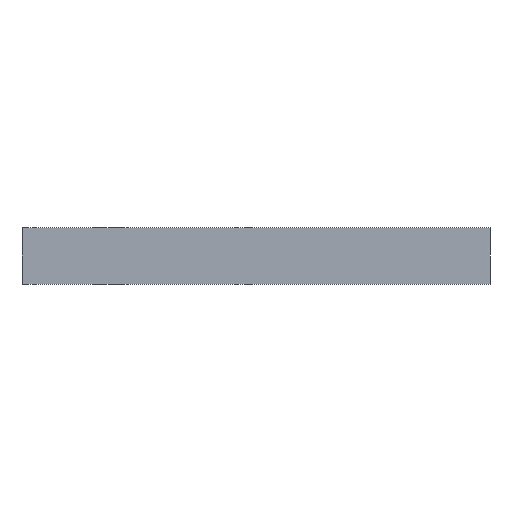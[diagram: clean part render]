
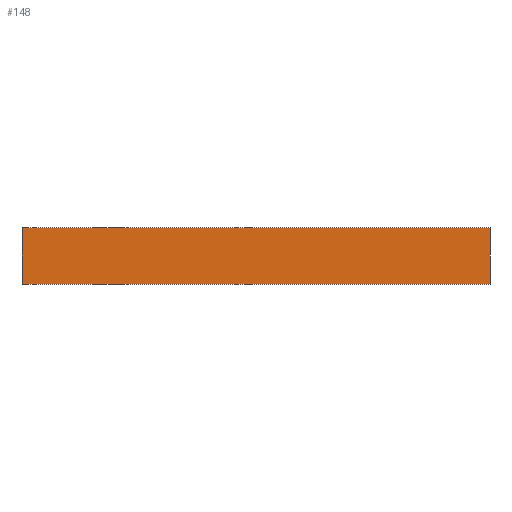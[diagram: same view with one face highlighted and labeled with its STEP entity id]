
A CAD part, front view. The second image highlights one B-rep face of the part: STEP entity #148.
In plain terms, the highlighted planar face has unit normal (0, -1, 0).
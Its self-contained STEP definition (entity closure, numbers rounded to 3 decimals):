
#32 = EDGE_CURVE('',#33,#35,#37,.T.);
#33 = VERTEX_POINT('',#34);
#34 = CARTESIAN_POINT('',(114.935,-82.55,0.));
#35 = VERTEX_POINT('',#36);
#36 = CARTESIAN_POINT('',(114.935,-82.55,1.6));
#37 = SURFACE_CURVE('',#38,(#42,#54),.PCURVE_S1.);
#38 = LINE('',#39,#40);
#39 = CARTESIAN_POINT('',(114.935,-82.55,0.));
#40 = VECTOR('',#41,1.);
#41 = DIRECTION('',(0.,0.,1.));
#42 = PCURVE('',#43,#48);
#43 = PLANE('',#44);
#44 = AXIS2_PLACEMENT_3D('',#45,#46,#47);
#45 = CARTESIAN_POINT('',(114.935,-82.55,0.));
#46 = DIRECTION('',(-1.,0.,0.));
#47 = DIRECTION('',(0.,1.,0.));
#48 = DEFINITIONAL_REPRESENTATION('',(#49),#53);
#49 = LINE('',#50,#51);
#50 = CARTESIAN_POINT('',(0.,0.));
#51 = VECTOR('',#52,1.);
#52 = DIRECTION('',(0.,-1.));
#53 = ( GEOMETRIC_REPRESENTATION_CONTEXT(2) 
PARAMETRIC_REPRESENTATION_CONTEXT() REPRESENTATION_CONTEXT('2D SPACE',''
  ) );
#54 = PCURVE('',#55,#60);
#55 = PLANE('',#56);
#56 = AXIS2_PLACEMENT_3D('',#57,#58,#59);
#57 = CARTESIAN_POINT('',(101.6,-82.55,0.));
#58 = DIRECTION('',(0.,1.,0.));
#59 = DIRECTION('',(1.,0.,0.));
#60 = DEFINITIONAL_REPRESENTATION('',(#61),#65);
#61 = LINE('',#62,#63);
#62 = CARTESIAN_POINT('',(13.335,0.));
#63 = VECTOR('',#64,1.);
#64 = DIRECTION('',(0.,-1.));
#65 = ( GEOMETRIC_REPRESENTATION_CONTEXT(2) 
PARAMETRIC_REPRESENTATION_CONTEXT() REPRESENTATION_CONTEXT('2D SPACE',''
  ) );
#83 = PLANE('',#84);
#84 = AXIS2_PLACEMENT_3D('',#85,#86,#87);
#85 = CARTESIAN_POINT('',(108.268,-73.66,1.6));
#86 = DIRECTION('',(0.,0.,1.));
#87 = DIRECTION('',(1.,0.,-0.));
#137 = PLANE('',#138);
#138 = AXIS2_PLACEMENT_3D('',#139,#140,#141);
#139 = CARTESIAN_POINT('',(108.268,-73.66,0.));
#140 = DIRECTION('',(0.,0.,1.));
#141 = DIRECTION('',(1.,0.,-0.));
#148 = ADVANCED_FACE('',(#149),#55,.F.);
#149 = FACE_BOUND('',#150,.F.);
#150 = EDGE_LOOP('',(#151,#181,#202,#203));
#151 = ORIENTED_EDGE('',*,*,#152,.T.);
#152 = EDGE_CURVE('',#153,#155,#157,.T.);
#153 = VERTEX_POINT('',#154);
#154 = CARTESIAN_POINT('',(101.6,-82.55,0.));
#155 = VERTEX_POINT('',#156);
#156 = CARTESIAN_POINT('',(101.6,-82.55,1.6));
#157 = SURFACE_CURVE('',#158,(#162,#169),.PCURVE_S1.);
#158 = LINE('',#159,#160);
#159 = CARTESIAN_POINT('',(101.6,-82.55,0.));
#160 = VECTOR('',#161,1.);
#161 = DIRECTION('',(0.,0.,1.));
#162 = PCURVE('',#55,#163);
#163 = DEFINITIONAL_REPRESENTATION('',(#164),#168);
#164 = LINE('',#165,#166);
#165 = CARTESIAN_POINT('',(0.,0.));
#166 = VECTOR('',#167,1.);
#167 = DIRECTION('',(0.,-1.));
#168 = ( GEOMETRIC_REPRESENTATION_CONTEXT(2) 
PARAMETRIC_REPRESENTATION_CONTEXT() REPRESENTATION_CONTEXT('2D SPACE',''
  ) );
#169 = PCURVE('',#170,#175);
#170 = PLANE('',#171);
#171 = AXIS2_PLACEMENT_3D('',#172,#173,#174);
#172 = CARTESIAN_POINT('',(101.6,-72.39,0.));
#173 = DIRECTION('',(1.,0.,-0.));
#174 = DIRECTION('',(0.,-1.,0.));
#175 = DEFINITIONAL_REPRESENTATION('',(#176),#180);
#176 = LINE('',#177,#178);
#177 = CARTESIAN_POINT('',(10.16,0.));
#178 = VECTOR('',#179,1.);
#179 = DIRECTION('',(0.,-1.));
#180 = ( GEOMETRIC_REPRESENTATION_CONTEXT(2) 
PARAMETRIC_REPRESENTATION_CONTEXT() REPRESENTATION_CONTEXT('2D SPACE',''
  ) );
#181 = ORIENTED_EDGE('',*,*,#182,.T.);
#182 = EDGE_CURVE('',#155,#35,#183,.T.);
#183 = SURFACE_CURVE('',#184,(#188,#195),.PCURVE_S1.);
#184 = LINE('',#185,#186);
#185 = CARTESIAN_POINT('',(101.6,-82.55,1.6));
#186 = VECTOR('',#187,1.);
#187 = DIRECTION('',(1.,0.,0.));
#188 = PCURVE('',#55,#189);
#189 = DEFINITIONAL_REPRESENTATION('',(#190),#194);
#190 = LINE('',#191,#192);
#191 = CARTESIAN_POINT('',(0.,-1.6));
#192 = VECTOR('',#193,1.);
#193 = DIRECTION('',(1.,0.));
#194 = ( GEOMETRIC_REPRESENTATION_CONTEXT(2) 
PARAMETRIC_REPRESENTATION_CONTEXT() REPRESENTATION_CONTEXT('2D SPACE',''
  ) );
#195 = PCURVE('',#83,#196);
#196 = DEFINITIONAL_REPRESENTATION('',(#197),#201);
#197 = LINE('',#198,#199);
#198 = CARTESIAN_POINT('',(-6.668,-8.89));
#199 = VECTOR('',#200,1.);
#200 = DIRECTION('',(1.,0.));
#201 = ( GEOMETRIC_REPRESENTATION_CONTEXT(2) 
PARAMETRIC_REPRESENTATION_CONTEXT() REPRESENTATION_CONTEXT('2D SPACE',''
  ) );
#202 = ORIENTED_EDGE('',*,*,#32,.F.);
#203 = ORIENTED_EDGE('',*,*,#204,.F.);
#204 = EDGE_CURVE('',#153,#33,#205,.T.);
#205 = SURFACE_CURVE('',#206,(#210,#217),.PCURVE_S1.);
#206 = LINE('',#207,#208);
#207 = CARTESIAN_POINT('',(101.6,-82.55,0.));
#208 = VECTOR('',#209,1.);
#209 = DIRECTION('',(1.,0.,0.));
#210 = PCURVE('',#55,#211);
#211 = DEFINITIONAL_REPRESENTATION('',(#212),#216);
#212 = LINE('',#213,#214);
#213 = CARTESIAN_POINT('',(0.,0.));
#214 = VECTOR('',#215,1.);
#215 = DIRECTION('',(1.,0.));
#216 = ( GEOMETRIC_REPRESENTATION_CONTEXT(2) 
PARAMETRIC_REPRESENTATION_CONTEXT() REPRESENTATION_CONTEXT('2D SPACE',''
  ) );
#217 = PCURVE('',#137,#218);
#218 = DEFINITIONAL_REPRESENTATION('',(#219),#223);
#219 = LINE('',#220,#221);
#220 = CARTESIAN_POINT('',(-6.668,-8.89));
#221 = VECTOR('',#222,1.);
#222 = DIRECTION('',(1.,0.));
#223 = ( GEOMETRIC_REPRESENTATION_CONTEXT(2) 
PARAMETRIC_REPRESENTATION_CONTEXT() REPRESENTATION_CONTEXT('2D SPACE',''
  ) );
